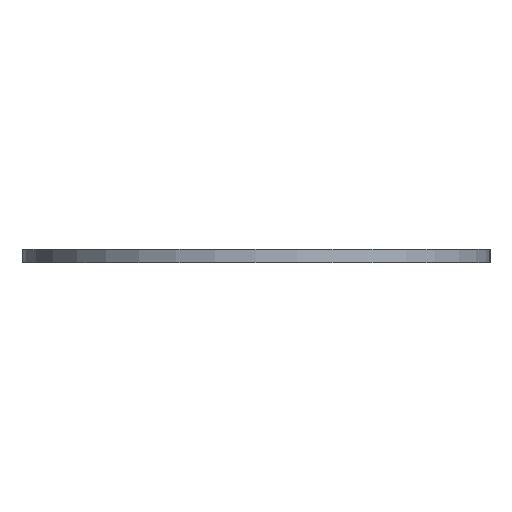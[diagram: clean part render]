
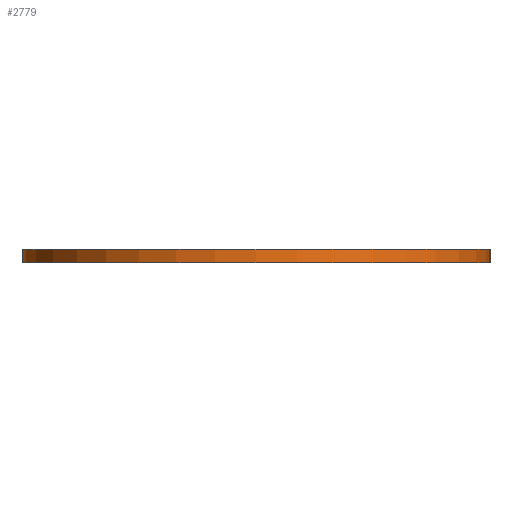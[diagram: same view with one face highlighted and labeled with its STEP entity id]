
A CAD part, left-side view. The second image highlights one B-rep face of the part: STEP entity #2779.
In plain terms, the highlighted cylindrical face has radius 54 mm (diameter 108 mm), a partial arc.
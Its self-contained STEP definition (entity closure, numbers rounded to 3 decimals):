
#86=CIRCLE('',#2978,54.);
#134=CIRCLE('',#3027,54.);
#180=CYLINDRICAL_SURFACE('',#3075,54.);
#616=ORIENTED_EDGE('',*,*,#1175,.T.);
#617=ORIENTED_EDGE('',*,*,#1251,.F.);
#618=ORIENTED_EDGE('',*,*,#1088,.F.);
#619=ORIENTED_EDGE('',*,*,#1253,.T.);
#1088=EDGE_CURVE('',#1442,#1439,#86,.T.);
#1175=EDGE_CURVE('',#1530,#1528,#134,.T.);
#1251=EDGE_CURVE('',#1439,#1528,#1743,.T.);
#1253=EDGE_CURVE('',#1442,#1530,#1745,.T.);
#1439=VERTEX_POINT('',#4225);
#1442=VERTEX_POINT('',#4230);
#1528=VERTEX_POINT('',#4404);
#1530=VERTEX_POINT('',#4407);
#1743=LINE('',#4563,#1961);
#1745=LINE('',#4567,#1963);
#1961=VECTOR('',#3681,1000.);
#1963=VECTOR('',#3687,1000.);
#2217=EDGE_LOOP('',(#616,#617,#618,#619));
#2539=FACE_BOUND('',#2217,.T.);
#2779=ADVANCED_FACE('',(#2539),#180,.T.);
#2978=AXIS2_PLACEMENT_3D('',#4231,#3408,#3409);
#3027=AXIS2_PLACEMENT_3D('',#4406,#3545,#3546);
#3075=AXIS2_PLACEMENT_3D('',#4569,#3690,#3691);
#3408=DIRECTION('',(0.,0.,-1.));
#3409=DIRECTION('',(1.,0.,0.));
#3545=DIRECTION('',(0.,0.,-1.));
#3546=DIRECTION('',(1.,0.,0.));
#3681=DIRECTION('',(0.,0.,1.));
#3687=DIRECTION('',(0.,0.,1.));
#3690=DIRECTION('',(0.,0.,1.));
#3691=DIRECTION('',(1.,0.,0.));
#4225=CARTESIAN_POINT('',(-400.,54.,-3.));
#4230=CARTESIAN_POINT('',(-400.,-54.,-3.));
#4231=CARTESIAN_POINT('',(-400.,0.,-3.));
#4404=CARTESIAN_POINT('',(-400.,54.,0.));
#4406=CARTESIAN_POINT('',(-400.,0.,0.));
#4407=CARTESIAN_POINT('',(-400.,-54.,0.));
#4563=CARTESIAN_POINT('',(-400.,54.,-3.));
#4567=CARTESIAN_POINT('',(-400.,-54.,-3.));
#4569=CARTESIAN_POINT('',(-400.,0.,-3.));
